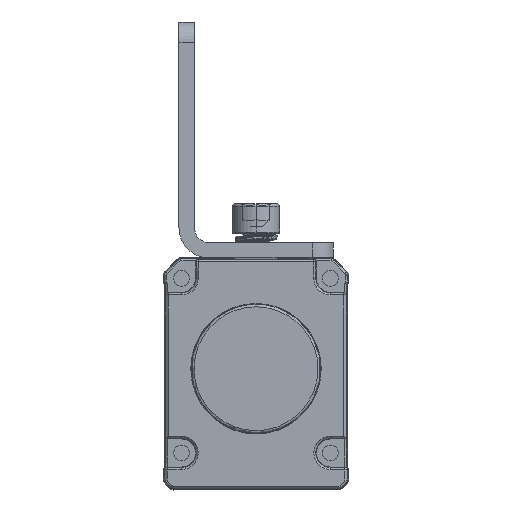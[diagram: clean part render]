
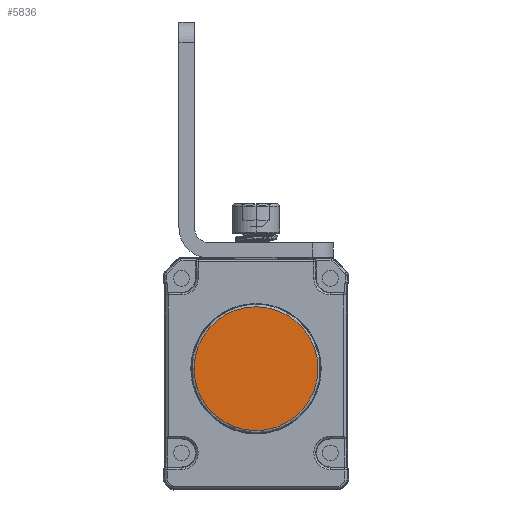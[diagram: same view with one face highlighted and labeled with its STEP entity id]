
A CAD part, front view. The second image highlights one B-rep face of the part: STEP entity #5836.
In plain terms, the highlighted planar face has unit normal (0, -1, 0) as drawn and (0, 1, 0) by its records, which use the part's own axes.
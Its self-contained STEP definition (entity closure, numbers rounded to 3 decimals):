
#3189=CARTESIAN_POINT('',(298.137,272.441,-93.947));
#3190=DIRECTION('',(0.,1.,0.));
#3191=DIRECTION('',(-1.,0.,-0.007));
#3192=AXIS2_PLACEMENT_3D('',#3189,#3190,#3191);
#3194=CARTESIAN_POINT('',(298.137,272.441,-93.947));
#3195=DIRECTION('',(0.,1.,0.));
#3196=DIRECTION('',(1.,0.,-0.001));
#3197=AXIS2_PLACEMENT_3D('',#3194,#3195,#3196);
#3199=CARTESIAN_POINT('',(298.137,272.441,-93.947));
#3200=DIRECTION('',(0.,1.,0.));
#3201=DIRECTION('',(1.,0.,0.007));
#3202=AXIS2_PLACEMENT_3D('',#3199,#3200,#3201);
#3204=CARTESIAN_POINT('',(298.137,272.441,-93.947));
#3205=DIRECTION('',(0.,1.,0.));
#3206=DIRECTION('',(-1.,0.,0.001));
#3207=AXIS2_PLACEMENT_3D('',#3204,#3205,#3206);
#3287=CARTESIAN_POINT('',(286.082,272.441,-94.027));
#3288=CARTESIAN_POINT('',(286.082,272.441,-93.939));
#3289=VERTEX_POINT('',#3287);
#3290=VERTEX_POINT('',#3288);
#3354=CARTESIAN_POINT('',(310.193,272.441,-93.955));
#3355=VERTEX_POINT('',#3354);
#3457=CARTESIAN_POINT('',(310.193,272.441,-93.867));
#3458=VERTEX_POINT('',#3457);
#5825=CARTESIAN_POINT('',(298.533,272.441,-94.753));
#5826=DIRECTION('',(0.,1.,0.));
#5827=DIRECTION('',(1.,0.,-0.001));
#5828=AXIS2_PLACEMENT_3D('',#5825,#5826,#5827);
#5829=PLANE('',#5828);
#5830=ORIENTED_EDGE('',*,*,#5802,.F.);
#5831=ORIENTED_EDGE('',*,*,#5816,.F.);
#5832=ORIENTED_EDGE('',*,*,#5814,.F.);
#5833=ORIENTED_EDGE('',*,*,#5804,.F.);
#5834=EDGE_LOOP('',(#5830,#5831,#5832,#5833));
#5835=FACE_OUTER_BOUND('',#5834,.F.);
#5836=ADVANCED_FACE('',(#5835),#5829,.T.);
#3193=CIRCLE('',#3192,12.056);
#3198=CIRCLE('',#3197,12.056);
#3203=CIRCLE('',#3202,12.056);
#3208=CIRCLE('',#3207,12.056);
#5802=EDGE_CURVE('',#3289,#3290,#3193,.T.);
#5804=EDGE_CURVE('',#3290,#3458,#3208,.T.);
#5814=EDGE_CURVE('',#3458,#3355,#3203,.T.);
#5816=EDGE_CURVE('',#3355,#3289,#3198,.T.);
